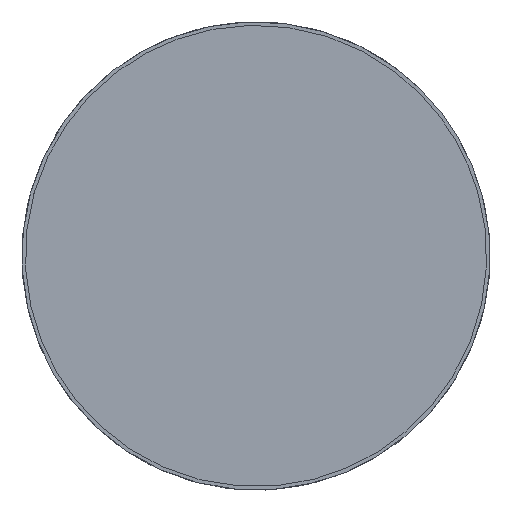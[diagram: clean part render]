
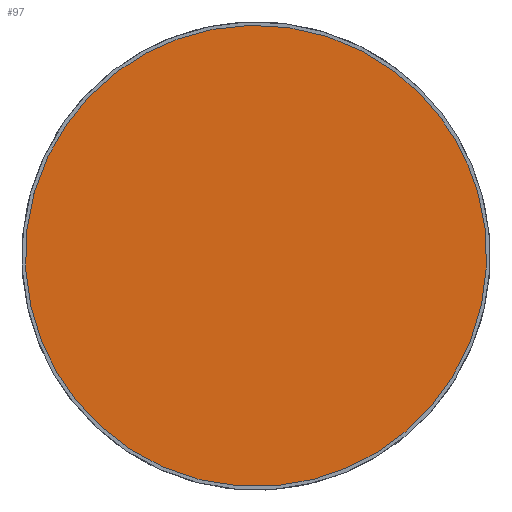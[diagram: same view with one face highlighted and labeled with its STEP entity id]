
A CAD part, top view. The second image highlights one B-rep face of the part: STEP entity #97.
In plain terms, the highlighted free-form (B-spline) face has degree [1, 1] with [2, 2] control points.
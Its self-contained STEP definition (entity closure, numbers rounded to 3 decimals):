
#97=ADVANCED_FACE('',(#159),#1709,.T.);
#159=FACE_OUTER_BOUND('',#223,.T.);
#223=EDGE_LOOP('',(#405,#406));
#405=ORIENTED_EDGE('',*,*,#1309,.F.);
#406=ORIENTED_EDGE('',*,*,#1313,.T.);
#555=(
BOUNDED_CURVE()
B_SPLINE_CURVE(2,(#3687,#3688,#3689,#3690,#3691),.UNSPECIFIED.,.F.,.F.)
B_SPLINE_CURVE_WITH_KNOTS((3,2,3),(-2199.115,-1099.557,
0.),.UNSPECIFIED.)
CURVE()
GEOMETRIC_REPRESENTATION_ITEM()
RATIONAL_B_SPLINE_CURVE((1.,0.707,1.,0.707,1.))
REPRESENTATION_ITEM('')
);
#561=(
BOUNDED_CURVE()
B_SPLINE_CURVE(2,(#3720,#3721,#3722,#3723,#3724),.UNSPECIFIED.,.F.,.F.)
B_SPLINE_CURVE_WITH_KNOTS((3,2,3),(-2199.115,-1099.557,
0.),.UNSPECIFIED.)
CURVE()
GEOMETRIC_REPRESENTATION_ITEM()
RATIONAL_B_SPLINE_CURVE((1.,0.707,1.,0.707,1.))
REPRESENTATION_ITEM('')
);
#562=(
BOUNDED_CURVE()
B_SPLINE_CURVE(2,(#3725,#3726,#3727,#3728,#3729),.UNSPECIFIED.,.F.,.F.)
B_SPLINE_CURVE_WITH_KNOTS((3,2,3),(2199.115,3298.672,4398.23),
 .UNSPECIFIED.)
CURVE()
GEOMETRIC_REPRESENTATION_ITEM()
RATIONAL_B_SPLINE_CURVE((1.,0.707,1.,0.707,1.))
REPRESENTATION_ITEM('')
);
#563=(
BOUNDED_CURVE()
B_SPLINE_CURVE(2,(#3730,#3731,#3732,#3733,#3734),.UNSPECIFIED.,.F.,.F.)
B_SPLINE_CURVE_WITH_KNOTS((3,2,3),(2199.115,3298.672,4398.23),
 .UNSPECIFIED.)
CURVE()
GEOMETRIC_REPRESENTATION_ITEM()
RATIONAL_B_SPLINE_CURVE((1.,0.707,1.,0.707,1.))
REPRESENTATION_ITEM('')
);
#775=PCURVE('',#1680,#1009);
#780=PCURVE('',#1709,#1014);
#781=PCURVE('',#1709,#1015);
#784=PCURVE('',#1681,#1018);
#1009=DEFINITIONAL_REPRESENTATION('',(#1517),#4297);
#1014=DEFINITIONAL_REPRESENTATION('',(#561),#4297);
#1015=DEFINITIONAL_REPRESENTATION('',(#563),#4297);
#1018=DEFINITIONAL_REPRESENTATION('',(#1522),#4297);
#1180=SURFACE_CURVE('',#555,(#775,#780),.PCURVE_S1.);
#1184=SURFACE_CURVE('',#562,(#781,#784),.PCURVE_S1.);
#1309=EDGE_CURVE('',#1637,#1635,#1180,.T.);
#1313=EDGE_CURVE('',#1637,#1635,#1184,.T.);
#1517=B_SPLINE_CURVE_WITH_KNOTS('',1,(#3692,#3693),.UNSPECIFIED.,.F.,.F.,
(2,2),(-2199.115,0.),.UNSPECIFIED.);
#1522=B_SPLINE_CURVE_WITH_KNOTS('',1,(#3739,#3740),.UNSPECIFIED.,.F.,.F.,
(2,2),(2199.115,4398.23),.UNSPECIFIED.);
#1635=VERTEX_POINT('',#3680);
#1637=VERTEX_POINT('',#3682);
#1680=(
BOUNDED_SURFACE()
B_SPLINE_SURFACE(2,1,((#3651,#3652),(#3653,#3654),(#3655,#3656),(#3657,
#3658),(#3659,#3660)),.UNSPECIFIED.,.F.,.F.,.F.)
B_SPLINE_SURFACE_WITH_KNOTS((3,2,3),(2,2),(0.,1099.557,2199.115),
(0.,30.),.UNSPECIFIED.)
GEOMETRIC_REPRESENTATION_ITEM()
RATIONAL_B_SPLINE_SURFACE(((1.,1.),(0.707,0.707),
(1.,1.),(0.707,0.707),(1.,1.)))
REPRESENTATION_ITEM('')
SURFACE()
);
#1681=(
BOUNDED_SURFACE()
B_SPLINE_SURFACE(2,1,((#3669,#3670),(#3671,#3672),(#3673,#3674),(#3675,
#3676),(#3677,#3678)),.UNSPECIFIED.,.F.,.F.,.F.)
B_SPLINE_SURFACE_WITH_KNOTS((3,2,3),(2,2),(2199.115,3298.672,
4398.23),(0.,30.),.UNSPECIFIED.)
GEOMETRIC_REPRESENTATION_ITEM()
RATIONAL_B_SPLINE_SURFACE(((1.,1.),(0.707,0.707),
(1.,1.),(0.707,0.707),(1.,1.)))
REPRESENTATION_ITEM('')
SURFACE()
);
#1709=B_SPLINE_SURFACE_WITH_KNOTS('',1,1,((#3665,#3666),(#3667,#3668)),
 .UNSPECIFIED.,.F.,.F.,.F.,(2,2),(2,2),(-450.,50.),(-250.,250.),
 .UNSPECIFIED.);
#3651=CARTESIAN_POINT('',(-4051.08,762.846,14.723));
#3652=CARTESIAN_POINT('',(-4051.08,762.846,34.723));
#3653=CARTESIAN_POINT('',(-4151.08,936.051,14.723));
#3654=CARTESIAN_POINT('',(-4151.08,936.051,34.723));
#3655=CARTESIAN_POINT('',(-4324.285,836.051,14.723));
#3656=CARTESIAN_POINT('',(-4324.285,836.051,34.723));
#3657=CARTESIAN_POINT('',(-4497.49,736.051,14.723));
#3658=CARTESIAN_POINT('',(-4497.49,736.051,34.723));
#3659=CARTESIAN_POINT('',(-4397.49,562.846,14.723));
#3660=CARTESIAN_POINT('',(-4397.49,562.846,34.723));
#3665=CARTESIAN_POINT('',(-4315.791,321.339,34.723));
#3666=CARTESIAN_POINT('',(-4565.791,754.352,34.723));
#3667=CARTESIAN_POINT('',(-3882.779,571.339,34.723));
#3668=CARTESIAN_POINT('',(-4132.779,1004.352,34.723));
#3669=CARTESIAN_POINT('',(-4397.49,562.846,14.723));
#3670=CARTESIAN_POINT('',(-4397.49,562.846,34.723));
#3671=CARTESIAN_POINT('',(-4297.49,389.641,14.723));
#3672=CARTESIAN_POINT('',(-4297.49,389.641,34.723));
#3673=CARTESIAN_POINT('',(-4124.285,489.641,14.723));
#3674=CARTESIAN_POINT('',(-4124.285,489.641,34.723));
#3675=CARTESIAN_POINT('',(-3951.08,589.641,14.723));
#3676=CARTESIAN_POINT('',(-3951.08,589.641,34.723));
#3677=CARTESIAN_POINT('',(-4051.08,762.846,14.723));
#3678=CARTESIAN_POINT('',(-4051.08,762.846,34.723));
#3680=CARTESIAN_POINT('',(-4051.08,762.846,34.723));
#3682=CARTESIAN_POINT('',(-4397.49,562.846,34.723));
#3687=CARTESIAN_POINT('',(-4397.49,562.846,34.723));
#3688=CARTESIAN_POINT('',(-4497.49,736.051,34.723));
#3689=CARTESIAN_POINT('',(-4324.285,836.051,34.723));
#3690=CARTESIAN_POINT('',(-4151.08,936.051,34.723));
#3691=CARTESIAN_POINT('',(-4051.08,762.846,34.723));
#3692=CARTESIAN_POINT('',(2199.115,30.));
#3693=CARTESIAN_POINT('',(0.,30.));
#3720=CARTESIAN_POINT('',(-400.,0.));
#3721=CARTESIAN_POINT('',(-400.,200.));
#3722=CARTESIAN_POINT('',(-200.,200.));
#3723=CARTESIAN_POINT('',(0.,200.));
#3724=CARTESIAN_POINT('',(0.,0.));
#3725=CARTESIAN_POINT('',(-4397.49,562.846,34.723));
#3726=CARTESIAN_POINT('',(-4297.49,389.641,34.723));
#3727=CARTESIAN_POINT('',(-4124.285,489.641,34.723));
#3728=CARTESIAN_POINT('',(-3951.08,589.641,34.723));
#3729=CARTESIAN_POINT('',(-4051.08,762.846,34.723));
#3730=CARTESIAN_POINT('',(-400.,0.));
#3731=CARTESIAN_POINT('',(-400.,-200.));
#3732=CARTESIAN_POINT('',(-200.,-200.));
#3733=CARTESIAN_POINT('',(0.,-200.));
#3734=CARTESIAN_POINT('',(0.,0.));
#3739=CARTESIAN_POINT('',(2199.115,30.));
#3740=CARTESIAN_POINT('',(4398.23,30.));
#4297=(
GEOMETRIC_REPRESENTATION_CONTEXT(2)
PARAMETRIC_REPRESENTATION_CONTEXT()
REPRESENTATION_CONTEXT('pspace','')
);
